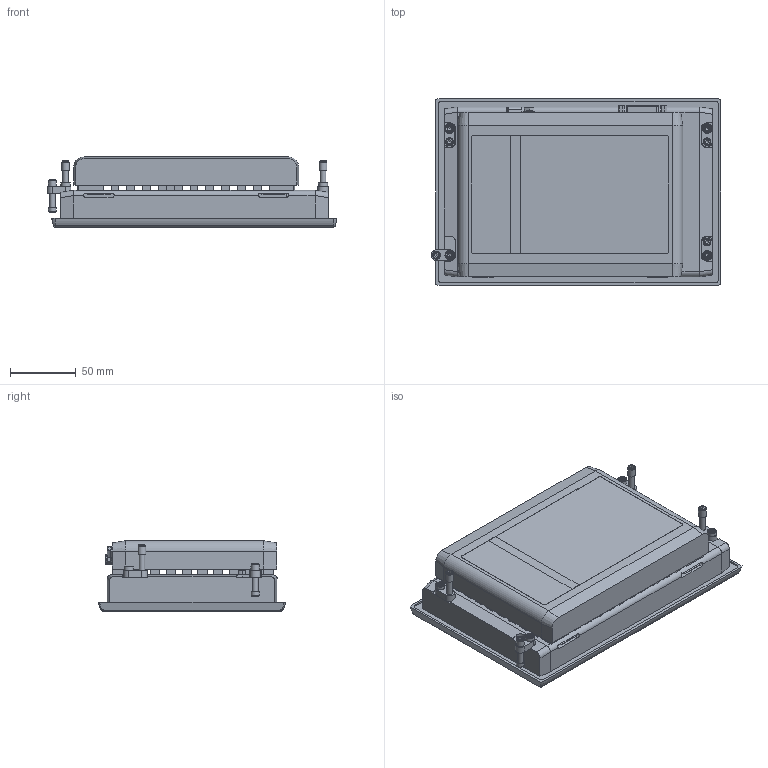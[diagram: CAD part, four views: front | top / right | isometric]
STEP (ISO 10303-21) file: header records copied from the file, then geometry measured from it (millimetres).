
FILE_DESCRIPTION(/* description */ (''),/* implementation_level */ '2;1');
FILE_NAME(/* name */ 'X:\0-inventor\0-3d-Teile\PC-Compo\solids\CP2xxx\0-Ausgabe\CP2907-M575.stp',/* time_stamp */ '2015-01-12T12:33:47+01:00',/* author */ ('christiankreuzer'),/* organization */ ('Design-AG'),/* preprocessor_version */ 'ST-DEVELOPER v15.6',/* originating_system */ 'Autodesk Inventor 2015',/* authorisation */ '');
FILE_SCHEMA (('AUTOMOTIVE_DESIGN { 1 0 10303 214 3 1 1 }'));
Length unit declared in the file: millimetre
Products named in the file (1): CP2907-M575-Step
Bounding box: 220 x 142 x 53.81 mm (x, y, z)
Volume: 922678 mm3; surface area: 215042.6 mm2
Topology: 17 solids, 22 shells, 1438 faces, 3680 edges, 2370 vertices
Faces by surface type: plane 945, cylinder 344, cone 72, bspline 61, torus 16
Full cylindrical faces by diameter (mm): 1.567 x2, 2.4 x2, 2.459 x2, 3 x5, 3.2 x2, 3.242 x4, 3.621 x1, 4 x4, 4.3 x1, 4.4 x4, 4.6 x4, 4.917 x4, 5.4 x4, 5.5 x4, 5.9 x1, 6 x7, 7 x4
Entity records: 46556 total; most frequent: CARTESIAN_POINT 11414, ORIENTED_EDGE 7034, DIRECTION 6806, EDGE_CURVE 3517, LINE 2530, VECTOR 2530, VERTEX_POINT 2330, AXIS2_PLACEMENT_3D 2138
